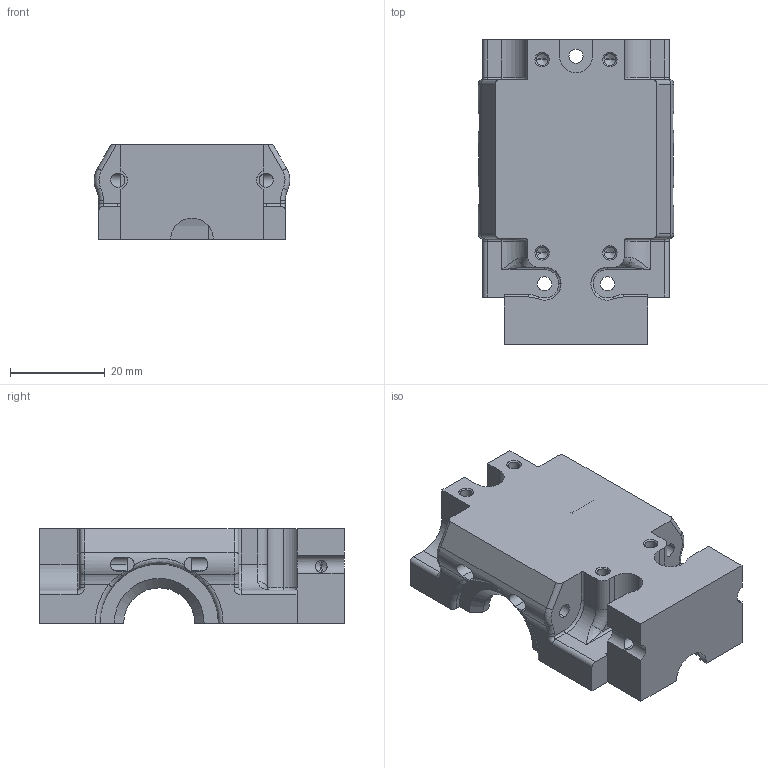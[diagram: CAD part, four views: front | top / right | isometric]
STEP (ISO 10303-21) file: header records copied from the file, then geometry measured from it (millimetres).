
FILE_DESCRIPTION (( 'STEP AP214' ), '1' );
FILE_NAME ('Çàäíèé ìîñò - Íæíåå îñíîâàíèå.STEP', '2019-03-21T13:56:52', ( '' ), ( '' ), 'SwSTEP 2.0', 'SolidWorks 2018', '' );
FILE_SCHEMA (( 'AUTOMOTIVE_DESIGN' ));
Length unit declared in the file: millimetre
Products named in the file (1): Çàäíèé ìîñò - Íæíåå îñíîâàíèå
Bounding box: 41.3 x 64.35 x 20 mm (x, y, z)
Volume: 25102.5 mm3; surface area: 12444.4 mm2
Topology: 1 solids, 1 shells, 238 faces, 635 edges, 385 vertices
Faces by surface type: cylinder 106, plane 63, cone 33, torus 28, bspline 8
Entity records: 8162 total; most frequent: CARTESIAN_POINT 2133, DIRECTION 1261, ORIENTED_EDGE 1234, EDGE_CURVE 617, AXIS2_PLACEMENT_3D 477, VERTEX_POINT 385, LINE 307, VECTOR 307
